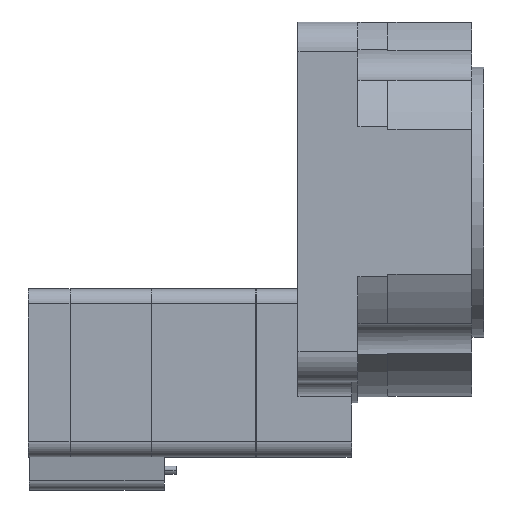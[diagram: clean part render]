
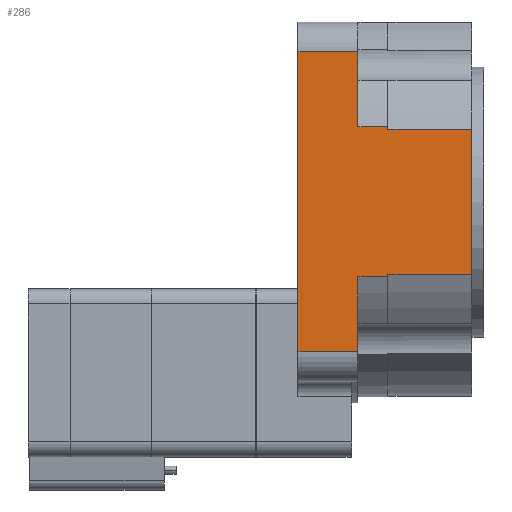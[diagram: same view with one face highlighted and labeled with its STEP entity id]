
A CAD part, top view. The second image highlights one B-rep face of the part: STEP entity #286.
In plain terms, the highlighted planar face has unit normal (0, 0, 1).
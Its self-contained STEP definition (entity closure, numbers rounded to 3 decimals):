
#286 = ADVANCED_FACE( '', ( #703 ), #704, .T. );
#703 = FACE_OUTER_BOUND( '', #1196, .T. );
#704 = PLANE( '', #1197 );
#1196 = EDGE_LOOP( '', ( #2671, #2672, #2673, #2674, #2675, #2676, #2677, #2678, #2679, #2680, #2681, #2682 ) );
#1197 = AXIS2_PLACEMENT_3D( '', #2683, #2684, #2685 );
#2671 = ORIENTED_EDGE( '', *, *, #3633, .F. );
#2672 = ORIENTED_EDGE( '', *, *, #3529, .T. );
#2673 = ORIENTED_EDGE( '', *, *, #3634, .T. );
#2674 = ORIENTED_EDGE( '', *, *, #3594, .F. );
#2675 = ORIENTED_EDGE( '', *, *, #3549, .F. );
#2676 = ORIENTED_EDGE( '', *, *, #3565, .F. );
#2677 = ORIENTED_EDGE( '', *, *, #3557, .F. );
#2678 = ORIENTED_EDGE( '', *, *, #3607, .F. );
#2679 = ORIENTED_EDGE( '', *, *, #3561, .F. );
#2680 = ORIENTED_EDGE( '', *, *, #3567, .F. );
#2681 = ORIENTED_EDGE( '', *, *, #3553, .F. );
#2682 = ORIENTED_EDGE( '', *, *, #3602, .F. );
#2683 = CARTESIAN_POINT( '', ( -31., -25., 30. ) );
#2684 = DIRECTION( '', ( 0., 0., 1. ) );
#2685 = DIRECTION( '', ( 0., -1., 0. ) );
#3529 = EDGE_CURVE( '', #4340, #4338, #4341, .T. );
#3549 = EDGE_CURVE( '', #4373, #4374, #4375, .T. );
#3553 = EDGE_CURVE( '', #4381, #4382, #4383, .T. );
#3557 = EDGE_CURVE( '', #4389, #4390, #4391, .T. );
#3561 = EDGE_CURVE( '', #4397, #4398, #4399, .T. );
#3565 = EDGE_CURVE( '', #4390, #4373, #4405, .T. );
#3567 = EDGE_CURVE( '', #4382, #4397, #4407, .T. );
#3594 = EDGE_CURVE( '', #4374, #4454, #4455, .T. );
#3602 = EDGE_CURVE( '', #4465, #4381, #4466, .T. );
#3607 = EDGE_CURVE( '', #4398, #4389, #4474, .T. );
#3633 = EDGE_CURVE( '', #4340, #4465, #4514, .T. );
#3634 = EDGE_CURVE( '', #4338, #4454, #4515, .T. );
#4338 = VERTEX_POINT( '', #5499 );
#4340 = VERTEX_POINT( '', #5501 );
#4341 = LINE( '', #5502, #5503 );
#4373 = VERTEX_POINT( '', #5547 );
#4374 = VERTEX_POINT( '', #5548 );
#4375 = LINE( '', #5549, #5550 );
#4381 = VERTEX_POINT( '', #5557 );
#4382 = VERTEX_POINT( '', #5558 );
#4383 = LINE( '', #5559, #5560 );
#4389 = VERTEX_POINT( '', #5567 );
#4390 = VERTEX_POINT( '', #5568 );
#4391 = LINE( '', #5569, #5570 );
#4397 = VERTEX_POINT( '', #5577 );
#4398 = VERTEX_POINT( '', #5578 );
#4399 = LINE( '', #5579, #5580 );
#4405 = LINE( '', #5587, #5588 );
#4407 = LINE( '', #5590, #5591 );
#4454 = VERTEX_POINT( '', #5650 );
#4455 = LINE( '', #5651, #5652 );
#4465 = VERTEX_POINT( '', #5663 );
#4466 = LINE( '', #5664, #5665 );
#4474 = LINE( '', #5674, #5675 );
#4514 = LINE( '', #5727, #5728 );
#4515 = LINE( '', #5729, #5730 );
#5499 = CARTESIAN_POINT( '', ( -31., -25., 30. ) );
#5501 = CARTESIAN_POINT( '', ( -31., 25., 30. ) );
#5502 = CARTESIAN_POINT( '', ( -31., 25., 30. ) );
#5503 = VECTOR( '', #6597, 1. );
#5547 = CARTESIAN_POINT( '', ( -16., -12.5, 30. ) );
#5548 = CARTESIAN_POINT( '', ( -21., -12.5, 30. ) );
#5549 = CARTESIAN_POINT( '', ( -18.5, -12.5, 30. ) );
#5550 = VECTOR( '', #6631, 1. );
#5557 = CARTESIAN_POINT( '', ( -21., 12.5, 30. ) );
#5558 = CARTESIAN_POINT( '', ( -16., 12.5, 30. ) );
#5559 = CARTESIAN_POINT( '', ( -18.5, 12.5, 30. ) );
#5560 = VECTOR( '', #6639, 1. );
#5567 = CARTESIAN_POINT( '', ( -2., -12.105, 30. ) );
#5568 = CARTESIAN_POINT( '', ( -16., -12.105, 30. ) );
#5569 = CARTESIAN_POINT( '', ( -9., -12.105, 30. ) );
#5570 = VECTOR( '', #6647, 1. );
#5577 = CARTESIAN_POINT( '', ( -16., 12.105, 30. ) );
#5578 = CARTESIAN_POINT( '', ( -2., 12.105, 30. ) );
#5579 = CARTESIAN_POINT( '', ( -9., 12.105, 30. ) );
#5580 = VECTOR( '', #6655, 1. );
#5587 = CARTESIAN_POINT( '', ( -16., 15., 30. ) );
#5588 = VECTOR( '', #6663, 1. );
#5590 = CARTESIAN_POINT( '', ( -16., 15., 30. ) );
#5591 = VECTOR( '', #6667, 1. );
#5650 = CARTESIAN_POINT( '', ( -21., -25., 30. ) );
#5651 = CARTESIAN_POINT( '', ( -21., 31.5, 30. ) );
#5652 = VECTOR( '', #6722, 1. );
#5663 = CARTESIAN_POINT( '', ( -21., 25., 30. ) );
#5664 = CARTESIAN_POINT( '', ( -21., 31.5, 30. ) );
#5665 = VECTOR( '', #6742, 1. );
#5674 = CARTESIAN_POINT( '', ( -2., 23.125, 30. ) );
#5675 = VECTOR( '', #6753, 1. );
#5727 = CARTESIAN_POINT( '', ( -31., 25., 30. ) );
#5728 = VECTOR( '', #6805, 1. );
#5729 = CARTESIAN_POINT( '', ( -31., -25., 30. ) );
#5730 = VECTOR( '', #6806, 1. );
#6597 = DIRECTION( '', ( 0., -1., 0. ) );
#6631 = DIRECTION( '', ( -1., 0., 0. ) );
#6639 = DIRECTION( '', ( 1., 0., 0. ) );
#6647 = DIRECTION( '', ( -1., 0., 0. ) );
#6655 = DIRECTION( '', ( 1., 0., 0. ) );
#6663 = DIRECTION( '', ( 0., -1., 0. ) );
#6667 = DIRECTION( '', ( 0., -1., 0. ) );
#6722 = DIRECTION( '', ( 0., -1., 0. ) );
#6742 = DIRECTION( '', ( 0., -1., 0. ) );
#6753 = DIRECTION( '', ( 0., -1., 0. ) );
#6805 = DIRECTION( '', ( 1., 0., 0. ) );
#6806 = DIRECTION( '', ( 1., 0., 0. ) );
